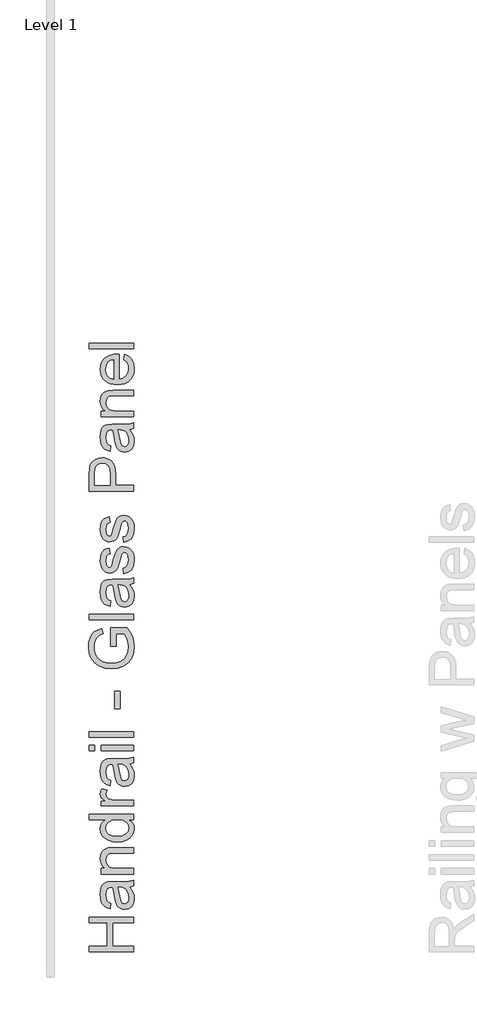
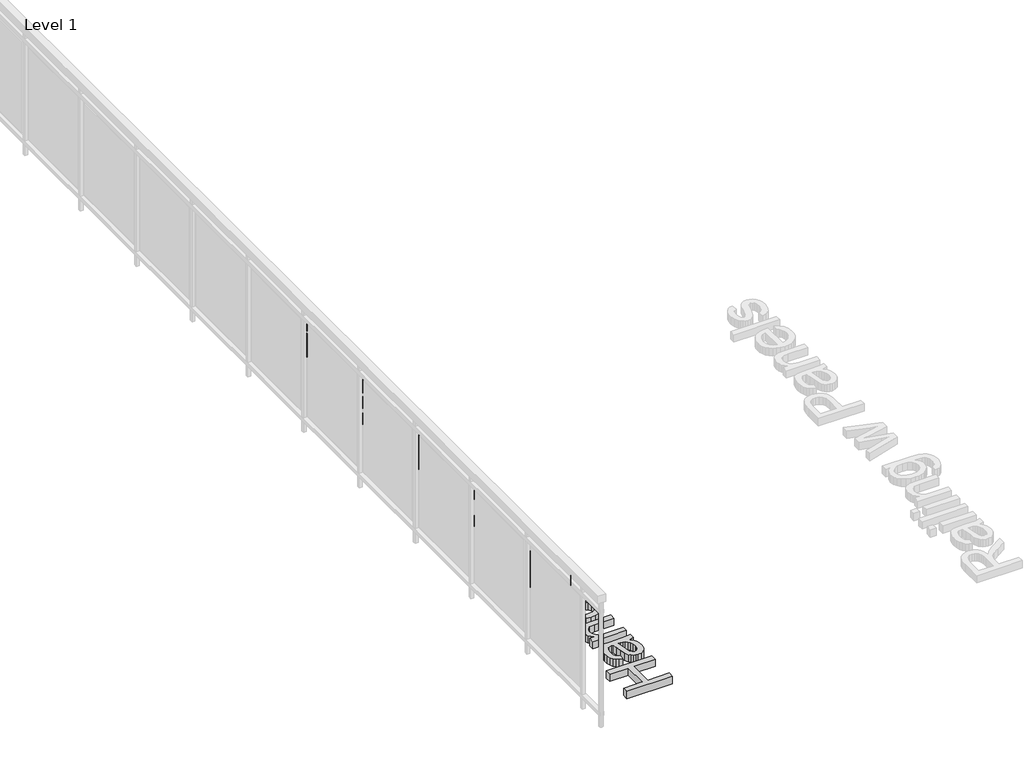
# One storey, part 7 of 14: 1 proxy.
"""IFC4 building model written with IfcOpenShell, lengths in millimetres."""

import ifcopenshell
import ifcopenshell.guid

model = None  # the IFC model being written
_history = None  # IfcOwnerHistory: only IFC2X3 demands one
_inside = {}  # id of a spatial element -> (the spatial element, [elements in it])
_under = {}  # id of a project, library or spatial element -> (it, [spatial elements below it])
_declared = {}  # id of a project -> (the project, [libraries it declares])
_typed = {}  # id of a type object -> (the type object, [elements of that type])
_made_of = {}  # id of a material, layer set ... -> (it, [elements and type objects made of it])


def new_model(schema):
    """Start an empty IFC model of exactly this schema.

    Asked for "IFC4X3", IfcOpenShell would pick the latest addendum, in which some entities
    have other attributes; the version numbers below select the first issue.
    IFC2X3 requires an IfcOwnerHistory on every rooted entity: one is made here for all.
    """
    global model, _history
    if schema == "IFC4X3":
        model = ifcopenshell.file(schema_version=(4, 3, 0, 0))
    else:
        model = ifcopenshell.file(schema=schema)
    _inside.clear()
    _under.clear()
    _declared.clear()
    _typed.clear()
    _made_of.clear()
    _history = None
    if model.schema == "IFC2X3":
        org = make("IfcOrganization", Name="unknown")
        user = make(
            "IfcPersonAndOrganization",
            ThePerson=make("IfcPerson", FamilyName="unknown"),
            TheOrganization=org,
        )
        app = make(
            "IfcApplication",
            ApplicationDeveloper=org,
            Version="unknown",
            ApplicationFullName="unknown",
            ApplicationIdentifier="unknown",
        )
        _history = make(
            "IfcOwnerHistory",
            OwningUser=user,
            OwningApplication=app,
            ChangeAction="ADDED",
            CreationDate=0,
        )
    return model


def make(cls, **values):
    """One entity of the class cls with the attributes given. An attribute that is None is left unset."""
    return model.create_entity(
        cls, **{name: value for name, value in values.items() if value is not None}
    )


def rooted(cls, **values):
    """An entity with a GlobalId (a new one), such as an element, a storey or a relation."""
    return make(cls, GlobalId=ifcopenshell.guid.new(), OwnerHistory=_history, **values)


def si_unit(unit_type, name, prefix=None):
    """IfcSIUnit, for example si_unit("LENGTHUNIT", "METRE", prefix="MILLI")."""
    return make("IfcSIUnit", UnitType=unit_type, Prefix=prefix, Name=name)


def assignment(units):
    """IfcUnitAssignment: the units of a project."""
    return None if units is None else make("IfcUnitAssignment", Units=units)


def point(xyz):
    """IfcCartesianPoint."""
    return None if xyz is None else make("IfcCartesianPoint", Coordinates=xyz)


def direction(xyz):
    """IfcDirection."""
    return None if xyz is None else make("IfcDirection", DirectionRatios=xyz)


def frame(location, z_axis=None, x_axis=None):
    """IfcAxis2Placement3D, a coordinate frame: its origin and axes. An axis left out is left unset."""
    return make(
        "IfcAxis2Placement3D",
        Location=point(location),
        Axis=direction(z_axis),
        RefDirection=direction(x_axis),
    )


def origin():
    """The frame at (0, 0, 0) with its axes left unset."""
    return frame((0.0, 0.0, 0.0))


def origin_with_axes():
    """The frame at (0, 0, 0) with the z axis (0, 0, 1) and the x axis (1, 0, 0) written out."""
    return frame((0.0, 0.0, 0.0), z_axis=(0.0, 0.0, 1.0), x_axis=(1.0, 0.0, 0.0))


def place(relative_to, where):
    """IfcLocalPlacement: puts the frame where relative to a parent placement (None: the world)."""
    return make(
        "IfcLocalPlacement", PlacementRelTo=relative_to, RelativePlacement=where
    )


def context(
    kind, dimensions, precision=None, world=None, true_north=None, identifier=None
):
    """IfcGeometricRepresentationContext, for example the 3D "Model" context."""
    return make(
        "IfcGeometricRepresentationContext",
        ContextIdentifier=identifier,
        ContextType=kind,
        CoordinateSpaceDimension=dimensions,
        Precision=precision,
        WorldCoordinateSystem=world,
        TrueNorth=true_north,
    )


def project(units=None, contexts=None):
    """IfcProject with its units and contexts."""
    return rooted(
        "IfcProject",
        Name="project",
        RepresentationContexts=contexts,
        UnitsInContext=assignment(units),
    )


def spatial(cls, under=None, at=None, **own):
    """A site, building, storey or space (cls), placed at a placement, below another one or the project."""
    s = rooted(cls, ObjectPlacement=at, **own)
    if under is not None:
        _under.setdefault(under.id(), (under, []))[1].append(s)
    return s


def polyline(points):
    """IfcPolyline through the points."""
    return make("IfcPolyline", Points=[point(p) for p in points])


def outline(outer, holes=None, kind="AREA"):
    """IfcArbitraryClosedProfileDef: a profile drawn as a closed curve; with holes, ...WithVoids."""
    if holes is None:
        return make("IfcArbitraryClosedProfileDef", ProfileType=kind, OuterCurve=outer)
    return make(
        "IfcArbitraryProfileDefWithVoids",
        ProfileType=kind,
        OuterCurve=outer,
        InnerCurves=holes,
    )


def extrude(swept, where, along, depth):
    """IfcExtrudedAreaSolid: the profile swept, set in the frame where, extruded along a direction by depth."""
    return make(
        "IfcExtrudedAreaSolid",
        SweptArea=swept,
        Position=where,
        ExtrudedDirection=direction(along),
        Depth=depth,
    )


def shape(context_of_items, identifier, shape_type, items):
    """IfcShapeRepresentation: the items that make up one representation, for example the "Body"."""
    return make(
        "IfcShapeRepresentation",
        ContextOfItems=context_of_items,
        RepresentationIdentifier=identifier,
        RepresentationType=shape_type,
        Items=items,
    )


def made_of(thing, what):
    """Note that an element or type object is made of a material, layer set ...; save() writes the relation."""
    if what is not None:
        _made_of.setdefault(what.id(), (what, []))[1].append(thing)
    return thing


def element(
    cls,
    number,
    at=None,
    inside=None,
    cuts=None,
    type_object=None,
    material=None,
    context=None,
    identifier="Body",
    shape_type=None,
    held_by="IfcProductDefinitionShape",
    body=None,
    shapes=None,
    **own,
):
    """One element of the class cls, such as IfcWall. Its Tag is "e" and its number.

    at: its placement. inside: the storey or other place that contains it. cuts: it is an
    opening in that element (IfcRelVoidsElement). A single representation is given by context,
    identifier, shape_type and body (its items); several are given by shapes. held_by: the class
    of the entity that holds the representations. save() writes the other relations.
    """
    e = rooted(cls, Tag="e%d" % number, ObjectPlacement=at, **own)
    if body is not None:
        shapes = [shape(context, identifier, shape_type, body)]
    if shapes is not None:
        e.Representation = make(held_by, Representations=shapes)
    if inside is not None:
        _inside.setdefault(inside.id(), (inside, []))[1].append(e)
    if cuts is not None:
        rooted(
            "IfcRelVoidsElement", RelatingBuildingElement=cuts, RelatedOpeningElement=e
        )
    if type_object is not None:
        _typed.setdefault(type_object.id(), (type_object, []))[1].append(e)
    return made_of(e, material)


def aggregate(whole, parts):
    """IfcRelAggregates: a whole, such as a stair, and the parts it consists of."""
    return rooted("IfcRelAggregates", RelatingObject=whole, RelatedObjects=parts)


def save(model, path):
    """Write the relations noted so far, then the file.

    IfcRelAggregates (storeys below a building ...), IfcRelContainedInSpatialStructure (elements
    in a storey), IfcRelDefinesByType, IfcRelAssociatesMaterial and IfcRelDeclares: one each for
    every whole, place, type object, material and project.
    """
    for whole, parts in _under.values():
        aggregate(whole, parts)
    for where, things in _inside.values():
        rooted(
            "IfcRelContainedInSpatialStructure",
            RelatedElements=things,
            RelatingStructure=where,
        )
    for kind, things in _typed.values():
        rooted("IfcRelDefinesByType", RelatedObjects=things, RelatingType=kind)
    for what, things in _made_of.values():
        rooted("IfcRelAssociatesMaterial", RelatedObjects=things, RelatingMaterial=what)
    for by, libraries in _declared.values():
        rooted("IfcRelDeclares", RelatingContext=by, RelatedDefinitions=libraries)
    model.write(path)


model = new_model("IFC4")

# Units and contexts
model_context = context("Model", 3, world=origin())
ifc_project = project(units=[si_unit("LENGTHUNIT", "METRE", prefix="MILLI")], contexts=[model_context])

# Site, building, storey
site = spatial("IfcSite", under=ifc_project)
building = spatial("IfcBuilding", under=site)
storey = spatial("IfcBuildingStorey", under=building, Name="Level 1", Elevation=0.0)

# Proxy
placement = place(None, origin())
element("IfcBuildingElementProxy", 1, Name="12\" Arial", ObjectType="12\" Arial", at=placement, inside=storey, context=model_context, shape_type="SweptSolid", body=[
    extrude(outline(polyline([(-10104.4541585, -14491.3688513), (-10404.5649278, -14491.3688513), (-10404.5649278, -14453.8550051), (-10282.6449278, -14453.8550051), (-10282.6449278, -14294.4211589), (-10404.5649278, -14294.4211589), (-10404.5649278, -14256.9073128), (-10104.4541585, -14256.9073128), (-10104.4541585, -14294.4211589), (-10245.1310816, -14294.4211589), (-10245.1310816, -14453.8550051), (-10104.4541585, -14453.8550051), (-10104.4541585, -14491.3688513)])), origin_with_axes(), (0.0, 0.0, 1.0), 50.8),
    extrude(outline(polyline([(-10132.5895432, -14055.2703897), (-10117.221322, -14073.1938753), (-10107.1651201, -14091.6485628), (-10101.6149758, -14111.0557503), (-10099.7649278, -14131.8367359), (-10104.2160335, -14163.186808), (-10117.5693508, -14186.3124089), (-10137.8466105, -14200.572433), (-10163.0695432, -14205.3257743), (-10178.6209374, -14203.5306782), (-10192.7435816, -14198.1453897), (-10204.8330047, -14189.8384907), (-10214.2847355, -14179.2785628), (-10226.5939662, -14153.0115436), (-10232.235697, -14120.5532743), (-10238.1705047, -14082.196832), (-10245.1310816, -14055.4901974), (-10253.4837739, -14055.2703897), (-10270.2257932, -14057.8531301), (-10281.1795432, -14065.6013513), (-10289.3124278, -14082.9295243), (-10292.0233893, -14107.0717359), (-10290.2191345, -14129.4188513), (-10284.8063701, -14145.0251974), (-10274.7959614, -14155.6675532), (-10259.1987739, -14163.1226974), (-10263.8880047, -14200.6365436), (-10284.4033893, -14194.1247407), (-10300.5226201, -14184.4074089), (-10312.8501682, -14170.5778416), (-10321.9905047, -14151.729332), (-10327.6505528, -14128.6770003), (-10329.5372355, -14102.2359666), (-10327.8703605, -14076.8756541), (-10322.8697355, -14056.7724089), (-10315.3504807, -14041.6148368), (-10306.1277162, -14031.0915436), (-10294.7251922, -14024.1126493), (-10280.6666585, -14019.5882743), (-10247.8420432, -14017.7565436), (-10201.1695432, -14017.7565436), (-10135.9965624, -14015.8515436), (-10104.4541585, -14008.378082), (-10104.4541585, -14045.8919282), (-10132.5895432, -14055.2703897)]), holes=[polyline([(-10207.6172355, -14055.2703897), (-10196.1139662, -14115.7907743), (-10190.0326201, -14148.0658705), (-10180.1412739, -14162.683082), (-10165.7072355, -14167.8119282), (-10154.5519951, -14165.0185388), (-10145.4116585, -14156.6383705), (-10139.3119951, -14142.8545964), (-10137.2787739, -14123.8503897), (-10139.5226441, -14103.7013513), (-10146.2542547, -14085.8969282), (-10156.1730768, -14071.4628897), (-10167.9785816, -14061.4250051), (-10180.1412739, -14056.9738993), (-10196.993197, -14055.4901974), (-10207.6172355, -14055.2703897)])]), origin_with_axes(), (0.0, 0.0, 1.0), 50.8),
    extrude(outline(polyline([(-10104.4541585, -13966.1750051), (-10324.8480047, -13966.1750051), (-10324.8480047, -13928.6611589), (-10294.0749278, -13928.6611589), (-10309.5896874, -13915.6283945), (-10320.6716585, -13899.9762551), (-10327.3208412, -13881.7047407), (-10329.5372355, -13860.8138513), (-10327.751298, -13842.3225291), (-10322.3934855, -13825.3881782), (-10314.1323797, -13811.2655339), (-10303.6365624, -13801.209332), (-10276.050697, -13789.9625051), (-10239.7824278, -13787.9842359), (-10104.4541585, -13787.9842359), (-10104.4541585, -13825.498082), (-10234.7268508, -13825.498082), (-10267.9178124, -13829.8209666), (-10277.7999999, -13835.8015676), (-10285.4657932, -13845.0976013), (-10290.3839903, -13857.0130099), (-10292.0233893, -13870.8517359), (-10288.3416105, -13892.8233464), (-10277.2962739, -13911.5527936), (-10268.2795792, -13919.0377034), (-10255.9566105, -13924.3840676), (-10221.3918508, -13928.6611589), (-10104.4541585, -13928.6611589), (-10104.4541585, -13966.1750051)])), origin_with_axes(), (0.0, 0.0, 1.0), 50.8),
    extrude(outline(polyline([(-10104.4541585, -13600.4150051), (-10139.843197, -13600.4150051), (-10122.3089542, -13611.6389354), (-10109.7844951, -13625.234957), (-10102.2698196, -13641.20307), (-10099.7649278, -13659.5432743), (-10103.3917547, -13683.7953897), (-10114.2722355, -13705.9959666), (-10131.6462018, -13724.7895243), (-10154.7534855, -13738.820582), (-10182.6599037, -13747.5579378), (-10214.4312739, -13750.4703897), (-10245.808822, -13747.7869041), (-10274.145697, -13739.7364474), (-10297.8299758, -13726.3281782), (-10315.2497355, -13707.5712551), (-10325.9653605, -13684.8852695), (-10329.5372355, -13659.6898128), (-10326.981971, -13641.3358705), (-10319.3161778, -13625.1067359), (-10307.5656249, -13611.3504378), (-10292.7560816, -13600.4150051), (-10404.5649278, -13600.4150051), (-10404.5649278, -13562.9011589), (-10104.4541585, -13562.9011589), (-10104.4541585, -13600.4150051)]), holes=[polyline([(-10214.5778124, -13712.9565436), (-10180.6449999, -13708.7252455), (-10156.511947, -13696.0313513), (-10142.0870672, -13677.5858224), (-10137.2787739, -13656.0996205), (-10141.8672595, -13634.6225772), (-10155.6327162, -13616.6441397), (-10178.8315864, -13604.4722888), (-10211.7203124, -13600.4150051), (-10247.6771874, -13604.545558), (-10272.6070432, -13616.9372166), (-10287.1693028, -13635.3735868), (-10292.0233893, -13657.6382743), (-10287.3616345, -13679.3442839), (-10273.3763701, -13697.1303897), (-10249.353221, -13709.0000051), (-10214.5778124, -13712.9565436)])]), origin_with_axes(), (0.0, 0.0, 1.0), 50.8),
    extrude(outline(polyline([(-10104.4541585, -13506.6303897), (-10324.8480047, -13506.6303897), (-10324.8480047, -13473.8057743), (-10292.243197, -13473.8057743), (-10311.1466585, -13461.6797166), (-10322.2835816, -13450.5061589), (-10327.723822, -13439.2959666), (-10329.5372355, -13427.0600051), (-10326.6431008, -13408.3763513), (-10317.960697, -13389.3996205), (-10284.3301201, -13401.9286589), (-10290.100072, -13415.1171205), (-10292.0233893, -13428.305582), (-10290.1733412, -13439.5066157), (-10284.623197, -13449.5170243), (-10275.7942547, -13457.6041157), (-10264.1078124, -13463.0351974), (-10243.1528124, -13467.596207), (-10220.2928124, -13469.1165436), (-10104.4541585, -13469.1165436), (-10104.4541585, -13506.6303897)])), origin_with_axes(), (0.0, 0.0, 1.0), 50.8),
    extrude(outline(polyline([(-10132.5895432, -13225.2765436), (-10117.221322, -13243.2000291), (-10107.1651201, -13261.6547166), (-10101.6149758, -13281.0619041), (-10099.7649278, -13301.8428897), (-10104.2160335, -13333.1929618), (-10117.5693508, -13356.3185628), (-10137.8466105, -13370.5785868), (-10163.0695432, -13375.3319282), (-10178.6209374, -13373.536832), (-10192.7435816, -13368.1515436), (-10204.8330047, -13359.8446445), (-10214.2847355, -13349.2847166), (-10226.5939662, -13323.0176974), (-10232.235697, -13290.5594282), (-10238.1705047, -13252.2029859), (-10245.1310816, -13225.4963513), (-10253.4837739, -13225.2765436), (-10270.2257932, -13227.8592839), (-10281.1795432, -13235.6075051), (-10289.3124278, -13252.9356782), (-10292.0233893, -13277.0778897), (-10290.2191345, -13299.4250051), (-10284.8063701, -13315.0313513), (-10274.7959614, -13325.673707), (-10259.1987739, -13333.1288513), (-10263.8880047, -13370.6426974), (-10284.4033893, -13364.1308945), (-10300.5226201, -13354.4135628), (-10312.8501682, -13340.5839955), (-10321.9905047, -13321.7354859), (-10327.6505528, -13298.6831541), (-10329.5372355, -13272.2421205), (-10327.8703605, -13246.881808), (-10322.8697355, -13226.7785628), (-10315.3504807, -13211.6209907), (-10306.1277162, -13201.0976974), (-10294.7251922, -13194.1188032), (-10280.6666585, -13189.5944282), (-10247.8420432, -13187.7626974), (-10201.1695432, -13187.7626974), (-10135.9965624, -13185.8576974), (-10104.4541585, -13178.3842359), (-10104.4541585, -13215.898082), (-10132.5895432, -13225.2765436)]), holes=[polyline([(-10207.6172355, -13225.2765436), (-10196.1139662, -13285.7969282), (-10190.0326201, -13318.0720243), (-10180.1412739, -13332.6892359), (-10165.7072355, -13337.818082), (-10154.5519951, -13335.0246926), (-10145.4116585, -13326.6445243), (-10139.3119951, -13312.8607503), (-10137.2787739, -13293.8565436), (-10139.5226441, -13273.7075051), (-10146.2542547, -13255.903082), (-10156.1730768, -13241.4690436), (-10167.9785816, -13231.4311589), (-10180.1412739, -13226.9800532), (-10196.993197, -13225.4963513), (-10207.6172355, -13225.2765436)])]), origin_with_axes(), (0.0, 0.0, 1.0), 50.8),
    extrude(outline(polyline([(-10367.0510816, -13136.1811589), (-10404.5649278, -13136.1811589), (-10404.5649278, -13098.6673128), (-10367.0510816, -13098.6673128), (-10367.0510816, -13136.1811589)])), origin_with_axes(), (0.0, 0.0, 1.0), 50.8),
    extrude(outline(polyline([(-10104.4541585, -13136.1811589), (-10324.8480047, -13136.1811589), (-10324.8480047, -13098.6673128), (-10104.4541585, -13098.6673128), (-10104.4541585, -13136.1811589)])), origin_with_axes(), (0.0, 0.0, 1.0), 50.8),
    extrude(outline(polyline([(-10104.4541585, -13042.3965436), (-10404.5649278, -13042.3965436), (-10404.5649278, -13004.8826974), (-10104.4541585, -13004.8826974), (-10104.4541585, -13042.3965436)])), origin_with_axes(), (0.0, 0.0, 1.0), 50.8),
    extrude(outline(polyline([(-10193.5495432, -12850.138082), (-10231.0633893, -12850.138082), (-10231.0633893, -12732.9073128), (-10193.5495432, -12732.9073128), (-10193.5495432, -12850.138082)])), origin_with_axes(), (0.0, 0.0, 1.0), 50.8),
    extrude(outline(polyline([(-10221.6849278, -12428.1073128), (-10259.1987739, -12428.1073128), (-10259.1987739, -12306.1873128), (-10147.0235816, -12306.1873128), (-10126.4166105, -12335.815558), (-10111.6345432, -12366.3779859), (-10102.7323316, -12397.8013272), (-10099.7649278, -12430.0123128), (-10104.4816345, -12472.0963272), (-10118.6317547, -12510.1322166), (-10141.720721, -12541.7295724), (-10173.2539662, -12564.4979859), (-10211.0792066, -12578.2634426), (-10253.0441585, -12582.8519282), (-10295.311346, -12578.2817599), (-10334.629447, -12564.5712551), (-10367.6097595, -12542.2882503), (-10390.8635816, -12512.000582), (-10404.6565143, -12475.1095243), (-10409.2541585, -12433.0163513), (-10406.5889903, -12402.1150532), (-10398.5934855, -12374.3276974), (-10385.8446393, -12350.9273368), (-10368.919447, -12333.1870243), (-10347.0027883, -12320.0626734), (-10319.2795432, -12310.5101974), (-10309.5347355, -12345.0932743), (-10329.3082691, -12352.8140195), (-10344.2277162, -12362.2016397), (-10355.4745432, -12374.6207743), (-10364.2302162, -12391.4360628), (-10369.8627883, -12411.4843561), (-10371.7403124, -12433.6025051), (-10369.7162499, -12459.4940195), (-10363.6440624, -12481.6304859), (-10354.2839182, -12499.9294763), (-10342.3959855, -12514.3085628), (-10313.4912739, -12533.6150051), (-10285.1727162, -12542.4073128), (-10254.5828124, -12545.338082), (-10218.7083653, -12541.8120003), (-10189.1900239, -12531.2337551), (-10166.2384374, -12513.9238993), (-10150.0642547, -12490.2029859), (-10140.4751441, -12462.4431061), (-10137.2787739, -12433.0163513), (-10139.6874999, -12407.0332503), (-10146.9136778, -12381.6912551), (-10156.8691345, -12359.6830099), (-10167.465697, -12343.7011589), (-10221.6849278, -12343.7011589), (-10221.6849278, -12428.1073128)])), origin_with_axes(), (0.0, 0.0, 1.0), 50.8),
    extrude(outline(polyline([(-10104.4541585, -12249.9165436), (-10404.5649278, -12249.9165436), (-10404.5649278, -12212.4026974), (-10104.4541585, -12212.4026974), (-10104.4541585, -12249.9165436)])), origin_with_axes(), (0.0, 0.0, 1.0), 50.8),
    extrude(outline(polyline([(-10132.5895432, -12015.4550051), (-10117.221322, -12033.3784907), (-10107.1651201, -12051.8331782), (-10101.6149758, -12071.2403657), (-10099.7649278, -12092.0213513), (-10104.2160335, -12123.3714234), (-10117.5693508, -12146.4970243), (-10137.8466105, -12160.7570484), (-10163.0695432, -12165.5103897), (-10178.6209374, -12163.7152936), (-10192.7435816, -12158.3300051), (-10204.8330047, -12150.0231061), (-10214.2847355, -12139.4631782), (-10226.5939662, -12113.1961589), (-10232.235697, -12080.7378897), (-10238.1705047, -12042.3814474), (-10245.1310816, -12015.6748128), (-10253.4837739, -12015.4550051), (-10270.2257932, -12018.0377455), (-10281.1795432, -12025.7859666), (-10289.3124278, -12043.1141397), (-10292.0233893, -12067.2563513), (-10290.2191345, -12089.6034666), (-10284.8063701, -12105.2098128), (-10274.7959614, -12115.8521686), (-10259.1987739, -12123.3073128), (-10263.8880047, -12160.8211589), (-10284.4033893, -12154.3093561), (-10300.5226201, -12144.5920243), (-10312.8501682, -12130.762457), (-10321.9905047, -12111.9139474), (-10327.6505528, -12088.8616157), (-10329.5372355, -12062.420582), (-10327.8703605, -12037.0602695), (-10322.8697355, -12016.9570243), (-10315.3504807, -12001.7994522), (-10306.1277162, -11991.2761589), (-10294.7251922, -11984.2972647), (-10280.6666585, -11979.7728897), (-10247.8420432, -11977.9411589), (-10201.1695432, -11977.9411589), (-10135.9965624, -11976.0361589), (-10104.4541585, -11968.5626974), (-10104.4541585, -12006.0765436), (-10132.5895432, -12015.4550051)]), holes=[polyline([(-10207.6172355, -12015.4550051), (-10196.1139662, -12075.9753897), (-10190.0326201, -12108.2504859), (-10180.1412739, -12122.8676974), (-10165.7072355, -12127.9965436), (-10154.5519951, -12125.2031541), (-10145.4116585, -12116.8229859), (-10139.3119951, -12103.0392118), (-10137.2787739, -12084.0350051), (-10139.5226441, -12063.8859666), (-10146.2542547, -12046.0815436), (-10156.1730768, -12031.6475051), (-10167.9785816, -12021.6096205), (-10180.1412739, -12017.1585147), (-10196.993197, -12015.6748128), (-10207.6172355, -12015.4550051)])]), origin_with_axes(), (0.0, 0.0, 1.0), 50.8),
    extrude(outline(polyline([(-10170.1033893, -11940.4273128), (-10174.7926201, -11902.9134666), (-10158.7466585, -11896.9969763), (-10146.9503124, -11885.5486589), (-10139.6966585, -11868.4952455), (-10137.2787739, -11845.7634666), (-10139.4951682, -11823.3064474), (-10146.1443508, -11807.5169282), (-10155.7792547, -11798.1751013), (-10166.9528124, -11795.0611589), (-10176.514447, -11798.1934186), (-10183.8047355, -11807.5901974), (-10194.5020432, -11846.203082), (-10212.8559855, -11902.6936589), (-10222.0787499, -11916.9903176), (-10234.2872355, -11927.3487551), (-10248.7029566, -11933.6407503), (-10264.5474278, -11935.738082), (-10279.0822114, -11934.0528897), (-10292.4996393, -11928.9973128), (-10304.2685095, -11921.0292839), (-10313.8576201, -11910.6067359), (-10324.9579085, -11886.7576013), (-10329.5372355, -11854.4825051), (-10327.696346, -11830.0655339), (-10322.1736778, -11808.8357743), (-10313.5095912, -11791.7640436), (-10302.244447, -11779.8211589), (-10287.5448076, -11771.908082), (-10268.5772355, -11766.9257743), (-10263.8880047, -11804.4396205), (-10275.6935095, -11809.1746445), (-10284.5865624, -11818.5439474), (-10290.1641826, -11832.6391157), (-10292.0233893, -11851.5517359), (-10290.2466105, -11873.0928897), (-10284.9162739, -11887.4536589), (-10277.2230047, -11895.5315916), (-10268.3574278, -11898.2242359), (-10257.4403124, -11893.7548128), (-10249.1608893, -11879.7603897), (-10241.1745432, -11847.4486589), (-10223.5166585, -11792.386832), (-10215.0723797, -11777.8428897), (-10203.5141585, -11766.8158705), (-10188.8053605, -11759.8644522), (-10170.9093508, -11757.5473128), (-10152.4088701, -11760.267433), (-10135.0074278, -11768.4277936), (-10120.0696633, -11781.7170003), (-10108.9602162, -11799.8236589), (-10102.0637499, -11821.6945243), (-10099.7649278, -11846.2763513), (-10104.1977162, -11884.1015916), (-10117.4960816, -11911.7057743), (-10139.5134855, -11930.1329859), (-10170.1033893, -11940.4273128)])), origin_with_axes(), (0.0, 0.0, 1.0), 50.8),
    extrude(outline(polyline([(-10170.1033893, -11729.4119282), (-10174.7926201, -11691.898082), (-10158.7466585, -11685.9815916), (-10146.9503124, -11674.5332743), (-10139.6966585, -11657.4798609), (-10137.2787739, -11634.748082), (-10139.4951682, -11612.2910628), (-10146.1443508, -11596.5015436), (-10155.7792547, -11587.1597166), (-10166.9528124, -11584.0457743), (-10176.514447, -11587.1780339), (-10183.8047355, -11596.5748128), (-10194.5020432, -11635.1876974), (-10212.8559855, -11691.6782743), (-10222.0787499, -11705.974933), (-10234.2872355, -11716.3333705), (-10248.7029566, -11722.6253657), (-10264.5474278, -11724.7226974), (-10279.0822114, -11723.0375051), (-10292.4996393, -11717.9819282), (-10304.2685095, -11710.0138993), (-10313.8576201, -11699.5913513), (-10324.9579085, -11675.7422166), (-10329.5372355, -11643.4671205), (-10327.696346, -11619.0501493), (-10322.1736778, -11597.8203897), (-10313.5095912, -11580.7486589), (-10302.244447, -11568.8057743), (-10287.5448076, -11560.8926974), (-10268.5772355, -11555.9103897), (-10263.8880047, -11593.4242359), (-10275.6935095, -11598.1592599), (-10284.5865624, -11607.5285628), (-10290.1641826, -11621.6237311), (-10292.0233893, -11640.5363513), (-10290.2466105, -11662.0775051), (-10284.9162739, -11676.4382743), (-10277.2230047, -11684.516207), (-10268.3574278, -11687.2088513), (-10257.4403124, -11682.7394282), (-10249.1608893, -11668.7450051), (-10241.1745432, -11636.4332743), (-10223.5166585, -11581.3714474), (-10215.0723797, -11566.8275051), (-10203.5141585, -11555.8004859), (-10188.8053605, -11548.8490676), (-10170.9093508, -11546.5319282), (-10152.4088701, -11549.2520484), (-10135.0074278, -11557.4124089), (-10120.0696633, -11570.7016157), (-10108.9602162, -11588.8082743), (-10102.0637499, -11610.6791397), (-10099.7649278, -11635.2609666), (-10104.1977162, -11673.086207), (-10117.4960816, -11700.6903897), (-10139.5134855, -11719.1176013), (-10170.1033893, -11729.4119282)])), origin_with_axes(), (0.0, 0.0, 1.0), 50.8),
    extrude(outline(polyline([(-10104.4541585, -11382.4088513), (-10404.5649278, -11382.4088513), (-10404.5649278, -11271.1861589), (-10401.7074278, -11226.3453897), (-10396.3679326, -11206.3520484), (-10387.6763701, -11189.8939474), (-10375.2389182, -11176.6413753), (-10358.6617547, -11166.2646205), (-10339.1080287, -11159.5604859), (-10317.7408893, -11157.3257743), (-10299.3182571, -11158.8346626), (-10282.3701682, -11163.3613272), (-10266.8966225, -11170.9057683), (-10252.8976201, -11181.4679859), (-10241.2936057, -11195.9684246), (-10233.0050239, -11215.3275291), (-10228.0318749, -11239.5452996), (-10226.3741585, -11268.6217359), (-10226.3741585, -11344.8950051), (-10104.4541585, -11344.8950051), (-10104.4541585, -11382.4088513)]), holes=[polyline([(-10263.8880047, -11344.8950051), (-10263.8880047, -11266.4236589), (-10267.3316585, -11233.1594282), (-10277.6626201, -11211.1786589), (-10294.2397835, -11198.9243801), (-10316.4220432, -11194.8396205), (-10333.2739662, -11197.2483464), (-10347.488197, -11204.4745243), (-10358.1855047, -11215.6206061), (-10364.4866585, -11229.7890436), (-10367.0510816, -11267.3028897), (-10367.0510816, -11344.8950051), (-10263.8880047, -11344.8950051)])]), origin_with_axes(), (0.0, 0.0, 1.0), 50.8),
    extrude(outline(polyline([(-10132.5895432, -10969.7565436), (-10117.221322, -10987.6800291), (-10107.1651201, -11006.1347166), (-10101.6149758, -11025.5419041), (-10099.7649278, -11046.3228897), (-10104.2160335, -11077.6729618), (-10117.5693508, -11100.7985628), (-10137.8466105, -11115.0585868), (-10163.0695432, -11119.8119282), (-10178.6209374, -11118.016832), (-10192.7435816, -11112.6315436), (-10204.8330047, -11104.3246445), (-10214.2847355, -11093.7647166), (-10226.5939662, -11067.4976974), (-10232.235697, -11035.0394282), (-10238.1705047, -10996.6829859), (-10245.1310816, -10969.9763513), (-10253.4837739, -10969.7565436), (-10270.2257932, -10972.3392839), (-10281.1795432, -10980.0875051), (-10289.3124278, -10997.4156782), (-10292.0233893, -11021.5578897), (-10290.2191345, -11043.9050051), (-10284.8063701, -11059.5113513), (-10274.7959614, -11070.153707), (-10259.1987739, -11077.6088513), (-10263.8880047, -11115.1226974), (-10284.4033893, -11108.6108945), (-10300.5226201, -11098.8935628), (-10312.8501682, -11085.0639955), (-10321.9905047, -11066.2154859), (-10327.6505528, -11043.1631541), (-10329.5372355, -11016.7221205), (-10327.8703605, -10991.361808), (-10322.8697355, -10971.2585628), (-10315.3504807, -10956.1009907), (-10306.1277162, -10945.5776974), (-10294.7251922, -10938.5988032), (-10280.6666585, -10934.0744282), (-10247.8420432, -10932.2426974), (-10201.1695432, -10932.2426974), (-10135.9965624, -10930.3376974), (-10104.4541585, -10922.8642359), (-10104.4541585, -10960.378082), (-10132.5895432, -10969.7565436)]), holes=[polyline([(-10207.6172355, -10969.7565436), (-10196.1139662, -11030.2769282), (-10190.0326201, -11062.5520243), (-10180.1412739, -11077.1692359), (-10165.7072355, -11082.298082), (-10154.5519951, -11079.5046926), (-10145.4116585, -11071.1245243), (-10139.3119951, -11057.3407503), (-10137.2787739, -11038.3365436), (-10139.5226441, -11018.1875051), (-10146.2542547, -11000.383082), (-10156.1730768, -10985.9490436), (-10167.9785816, -10975.9111589), (-10180.1412739, -10971.4600532), (-10196.993197, -10969.9763513), (-10207.6172355, -10969.7565436)])]), origin_with_axes(), (0.0, 0.0, 1.0), 50.8),
    extrude(outline(polyline([(-10104.4541585, -10880.6611589), (-10324.8480047, -10880.6611589), (-10324.8480047, -10843.1473128), (-10294.0749278, -10843.1473128), (-10309.5896874, -10830.1145484), (-10320.6716585, -10814.4624089), (-10327.3208412, -10796.1908945), (-10329.5372355, -10775.3000051), (-10327.751298, -10756.808683), (-10322.3934855, -10739.874332), (-10314.1323797, -10725.7516878), (-10303.6365624, -10715.6954859), (-10276.050697, -10704.4486589), (-10239.7824278, -10702.4703897), (-10104.4541585, -10702.4703897), (-10104.4541585, -10739.9842359), (-10234.7268508, -10739.9842359), (-10267.9178124, -10744.3071205), (-10277.7999999, -10750.2877214), (-10285.4657932, -10759.5837551), (-10290.3839903, -10771.4991638), (-10292.0233893, -10785.3378897), (-10288.3416105, -10807.3095003), (-10277.2962739, -10826.0389474), (-10268.2795792, -10833.5238573), (-10255.9566105, -10838.8702214), (-10221.3918508, -10843.1473128), (-10104.4541585, -10843.1473128), (-10104.4541585, -10880.6611589)])), origin_with_axes(), (0.0, 0.0, 1.0), 50.8),
    extrude(outline(polyline([(-10170.1033893, -10496.5838513), (-10165.4141585, -10459.8026974), (-10137.700072, -10473.0552695), (-10116.983197, -10494.2026013), (-10104.0694951, -10522.7684426), (-10099.7649278, -10558.2765436), (-10101.6218448, -10581.5532623), (-10107.192596, -10602.2930339), (-10116.4771814, -10620.4958585), (-10129.4756008, -10636.1617359), (-10145.8260876, -10648.7594642), (-10165.1668749, -10657.7578416), (-10187.4979626, -10663.1568681), (-10212.8193508, -10664.9565436), (-10238.9993629, -10663.1385508), (-10262.0745912, -10657.6845724), (-10282.0450359, -10648.5946085), (-10298.910697, -10635.8686589), (-10312.3098076, -10620.2439955), (-10321.8806008, -10602.4578897), (-10327.6230768, -10582.5103416), (-10329.5372355, -10560.4013513), (-10327.6276561, -10539.0044462), (-10321.8989182, -10519.6545003), (-10312.3510215, -10502.3515135), (-10298.9839662, -10487.0954859), (-10282.1549398, -10474.6420063), (-10262.2211297, -10465.7466638), (-10239.1825359, -10460.4094582), (-10213.0391585, -10458.6303897), (-10202.9280047, -10458.8501974), (-10202.9280047, -10627.4426974), (-10174.847572, -10620.9492118), (-10154.2039662, -10605.8649089), (-10141.510072, -10584.0947888), (-10137.2787739, -10557.5438513), (-10139.2387258, -10537.5779859), (-10145.1185816, -10520.7626974), (-10155.2846874, -10507.0979859), (-10170.1033893, -10496.5838513)]), holes=[polyline([(-10240.4418508, -10627.4426974), (-10240.4418508, -10496.1442359), (-10260.2611778, -10501.2181301), (-10274.4387739, -10511.1644282), (-10287.6272355, -10533.0352936), (-10292.0233893, -10560.5478897), (-10288.5156249, -10585.834933), (-10277.9923316, -10606.7441397), (-10261.5891826, -10621.2789234), (-10240.4418508, -10627.4426974)])]), origin_with_axes(), (0.0, 0.0, 1.0), 50.8),
    extrude(outline(polyline([(-10104.4541585, -10421.1165436), (-10404.5649278, -10421.1165436), (-10404.5649278, -10383.6026974), (-10104.4541585, -10383.6026974), (-10104.4541585, -10421.1165436)])), origin_with_axes(), (0.0, 0.0, 1.0), 50.8),
])

save(model, "model.ifc")
